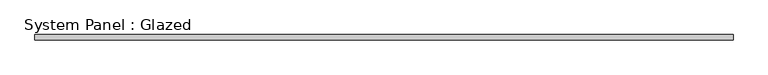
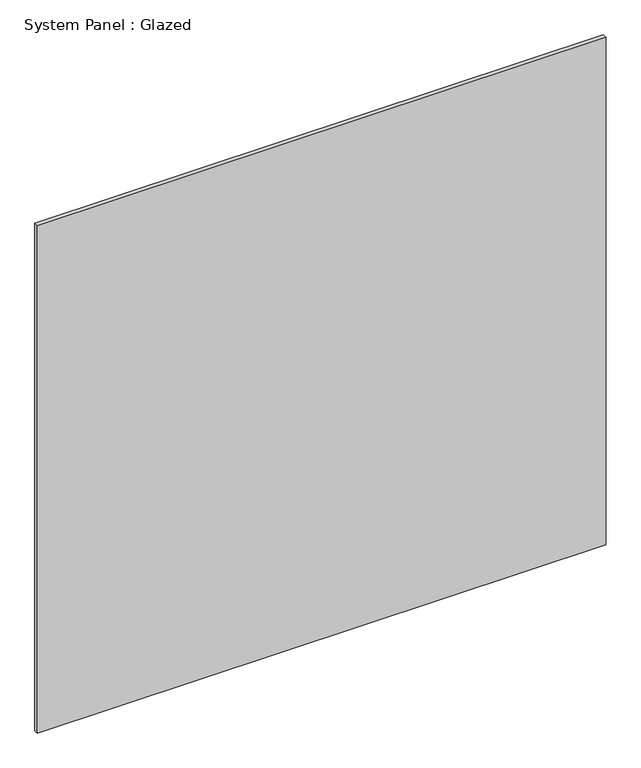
"""IFC4 building model written with IfcOpenShell, lengths in millimetres: plate geometry, System Panel : Glazed."""

from ifc_helpers import new_model, si_unit, origin, origin_with_axes, place, context, project, spatial, polyline, outline, extrude, source, transform, mapped, element, save


def system_panel_glazed_268463b7(model_context):
    return source(origin(), model_context, "Body", "SweptSolid", [
        extrude(outline(polyline([(1643.75, 24.5), (-1643.75, 24.5), (-1643.75, 49.5), (1643.75, 49.5), (1643.75, 24.5)])), origin_with_axes(), (0.0, 0.0, 1.0), 3100.0),
    ])


if __name__ == "__main__":
    model = new_model("IFC4")
    model_context = context("Model", 3, world=origin())
    ifc_project = project(units=[si_unit("LENGTHUNIT", "METRE", prefix="MILLI")], contexts=[model_context])
    site = spatial("IfcSite", under=ifc_project)
    building = spatial("IfcBuilding", under=site)
    placement = place(None, origin())
    system_panel_glazed_shape = system_panel_glazed_268463b7(model_context)
    element("IfcPlate", 1, ObjectType="System Panel : Glazed", at=placement, inside=building, context=model_context, shape_type="MappedRepresentation", body=[
        mapped(system_panel_glazed_shape, transform((0.0, 0.0, 0.0), x_axis=(1.0, 0.0, 0.0), y_axis=(0.0, 1.0, 0.0), z_axis=(0.0, 0.0, 1.0))),
    ])
    save(model, "model.ifc")
